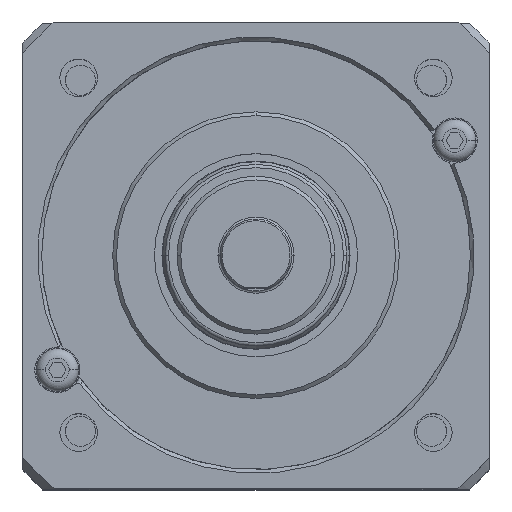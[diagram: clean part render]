
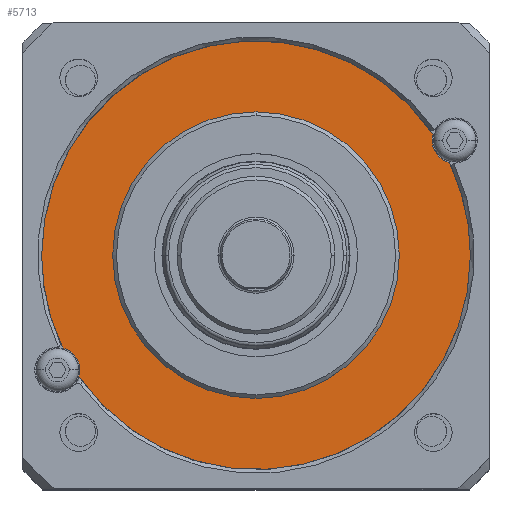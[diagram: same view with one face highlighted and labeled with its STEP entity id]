
A CAD part, top view. The second image highlights one B-rep face of the part: STEP entity #5713.
In plain terms, the highlighted planar face has unit normal (0, 0, 1).
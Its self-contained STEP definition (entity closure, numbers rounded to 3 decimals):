
#5482=CARTESIAN_POINT('',(0.,0.,-0.2));
#5483=DIRECTION('',(0.,0.,-1.));
#5484=DIRECTION('',(0.,-1.,0.));
#5485=AXIS2_PLACEMENT_3D('',#5482,#5483,#5484);
#5487=CARTESIAN_POINT('',(0.,0.,-0.2));
#5488=DIRECTION('',(0.,0.,-1.));
#5489=DIRECTION('',(0.,1.,0.));
#5490=AXIS2_PLACEMENT_3D('',#5487,#5488,#5489);
#5492=CARTESIAN_POINT('',(0.,0.,-0.2));
#5493=DIRECTION('',(0.,0.,-1.));
#5494=DIRECTION('',(-0.901,-0.433,0.));
#5495=AXIS2_PLACEMENT_3D('',#5492,#5493,#5494);
#5497=CARTESIAN_POINT('',(0.,0.,-0.2));
#5498=DIRECTION('',(0.,0.,-1.));
#5499=DIRECTION('',(-1.,0.,0.));
#5500=AXIS2_PLACEMENT_3D('',#5497,#5498,#5499);
#5502=CARTESIAN_POINT('',(0.,0.,-0.2));
#5503=DIRECTION('',(0.,0.,-1.));
#5504=DIRECTION('',(0.901,0.433,0.));
#5505=AXIS2_PLACEMENT_3D('',#5502,#5503,#5504);
#5507=CARTESIAN_POINT('',(0.,0.,-0.2));
#5508=DIRECTION('',(0.,0.,-1.));
#5509=DIRECTION('',(1.,0.,0.));
#5510=AXIS2_PLACEMENT_3D('',#5507,#5508,#5509);
#5512=CARTESIAN_POINT('',(-26.414,-15.25,-0.2));
#5513=DIRECTION('',(0.,0.,-1.));
#5514=DIRECTION('',(0.241,0.971,0.));
#5515=AXIS2_PLACEMENT_3D('',#5512,#5513,#5514);
#5539=CARTESIAN_POINT('',(26.414,15.25,-0.2));
#5540=DIRECTION('',(0.,0.,-1.));
#5541=DIRECTION('',(-0.241,-0.971,0.));
#5542=AXIS2_PLACEMENT_3D('',#5539,#5540,#5541);
#5556=CARTESIAN_POINT('',(0.,-19.05,-0.2));
#5557=CARTESIAN_POINT('',(0.,19.05,-0.2));
#5558=VERTEX_POINT('',#5556);
#5559=VERTEX_POINT('',#5557);
#5569=CARTESIAN_POINT('',(23.531,16.08,-0.2));
#5571=VERTEX_POINT('',#5569);
#5573=CARTESIAN_POINT('',(25.691,12.338,-0.2));
#5575=VERTEX_POINT('',#5573);
#5576=CARTESIAN_POINT('',(28.5,0.,-0.2));
#5577=VERTEX_POINT('',#5576);
#5578=CARTESIAN_POINT('',(-28.5,0.,-0.2));
#5579=VERTEX_POINT('',#5578);
#5581=CARTESIAN_POINT('',(-25.691,-12.338,-0.2));
#5583=VERTEX_POINT('',#5581);
#5585=CARTESIAN_POINT('',(-23.531,-16.08,-0.2));
#5587=VERTEX_POINT('',#5585);
#5690=CARTESIAN_POINT('',(0.,0.,-0.2));
#5691=DIRECTION('',(0.,0.,1.));
#5692=DIRECTION('',(0.,-1.,0.));
#5693=AXIS2_PLACEMENT_3D('',#5690,#5691,#5692);
#5694=PLANE('',#5693);
#5696=ORIENTED_EDGE('',*,*,#5695,.F.);
#5698=ORIENTED_EDGE('',*,*,#5697,.T.);
#5700=ORIENTED_EDGE('',*,*,#5699,.T.);
#5702=ORIENTED_EDGE('',*,*,#5701,.F.);
#5704=ORIENTED_EDGE('',*,*,#5703,.T.);
#5706=ORIENTED_EDGE('',*,*,#5705,.T.);
#5707=EDGE_LOOP('',(#5696,#5698,#5700,#5702,#5704,#5706));
#5708=FACE_OUTER_BOUND('',#5707,.F.);
#5709=ORIENTED_EDGE('',*,*,#5684,.F.);
#5710=ORIENTED_EDGE('',*,*,#5670,.F.);
#5711=EDGE_LOOP('',(#5709,#5710));
#5712=FACE_BOUND('',#5711,.F.);
#5713=ADVANCED_FACE('',(#5708,#5712),#5694,.T.);
#5486=CIRCLE('',#5485,19.05);
#5491=CIRCLE('',#5490,19.05);
#5496=CIRCLE('',#5495,28.5);
#5501=CIRCLE('',#5500,28.5);
#5506=CIRCLE('',#5505,28.5);
#5511=CIRCLE('',#5510,28.5);
#5516=CIRCLE('',#5515,3.);
#5543=CIRCLE('',#5542,3.);
#5670=EDGE_CURVE('',#5559,#5558,#5491,.T.);
#5684=EDGE_CURVE('',#5558,#5559,#5486,.T.);
#5695=EDGE_CURVE('',#5583,#5587,#5516,.T.);
#5697=EDGE_CURVE('',#5583,#5579,#5496,.T.);
#5699=EDGE_CURVE('',#5579,#5571,#5501,.T.);
#5701=EDGE_CURVE('',#5575,#5571,#5543,.T.);
#5703=EDGE_CURVE('',#5575,#5577,#5506,.T.);
#5705=EDGE_CURVE('',#5577,#5587,#5511,.T.);
